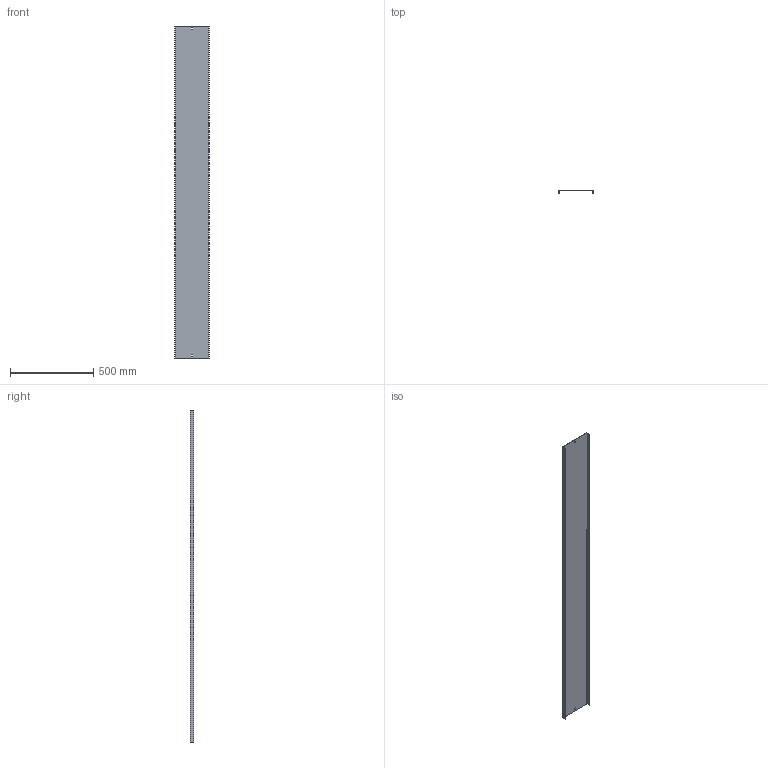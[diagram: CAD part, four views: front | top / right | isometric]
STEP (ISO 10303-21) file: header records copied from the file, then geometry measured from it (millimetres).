
FILE_DESCRIPTION (( 'STEP AP214' ), '1' );
FILE_NAME ('05G2R200.step', '2025-02-21T13:07:19', ( '' ), ( '' ), 'SwSTEP 2.0', 'SolidWorks 2023', '' );
FILE_SCHEMA (( 'AUTOMOTIVE_DESIGN' ));
Length unit declared in the file: millimetre
Products named in the file (1): 05G2R200
Bounding box: 207 x 20 x 2000 mm (x, y, z)
Volume: 731824.5 mm3; surface area: 982591 mm2
Topology: 1 solids, 1 shells, 18 faces, 48 edges, 32 vertices
Faces by surface type: plane 18
Entity records: 583 total; most frequent: CARTESIAN_POINT 99, ORIENTED_EDGE 96, DIRECTION 86, EDGE_CURVE 48, LINE 48, VECTOR 48, VERTEX_POINT 32, EDGE_LOOP 22
